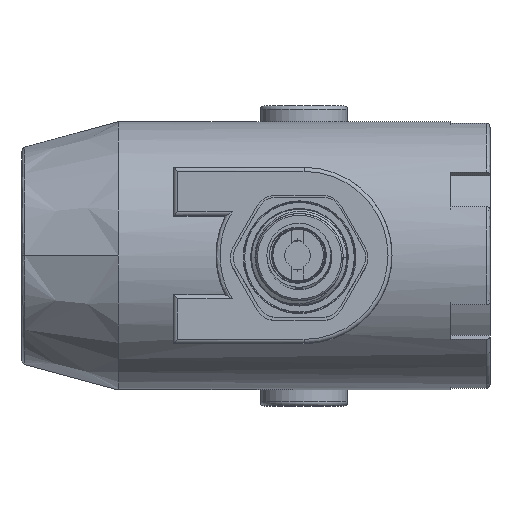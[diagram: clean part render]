
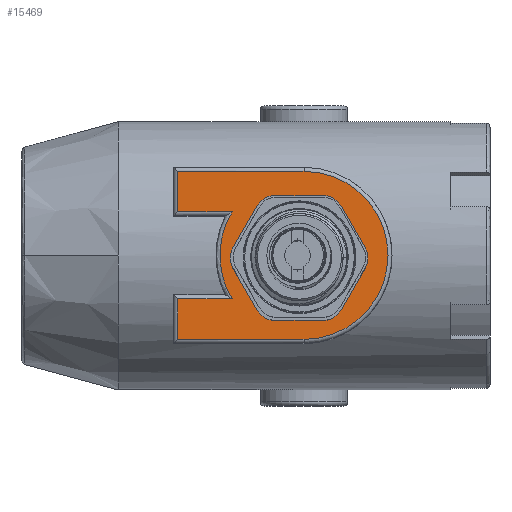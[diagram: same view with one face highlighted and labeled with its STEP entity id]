
A CAD part, top view. The second image highlights one B-rep face of the part: STEP entity #15469.
In plain terms, the highlighted planar face has unit normal (0, 0, 1) as drawn and (0, -1, 0) by its records, which use the part's own axes.
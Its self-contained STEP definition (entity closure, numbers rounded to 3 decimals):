
#13883=DIRECTION('',(0.,0.,-1.));
#13884=VECTOR('',#13883,10.137);
#13885=CARTESIAN_POINT('',(-31.531,0.,21.));
#13886=LINE('',#13885,#13884);
#13887=DIRECTION('',(-1.,0.,0.));
#13888=VECTOR('',#13887,31.531);
#13889=CARTESIAN_POINT('',(0.,0.,21.));
#13890=LINE('',#13889,#13888);
#13891=CARTESIAN_POINT('',(0.,0.,0.));
#13892=DIRECTION('',(0.,-1.,0.));
#13893=DIRECTION('',(0.,0.,-1.));
#13894=AXIS2_PLACEMENT_3D('',#13891,#13892,#13893);
#13896=DIRECTION('',(1.,0.,0.));
#13897=VECTOR('',#13896,31.531);
#13898=CARTESIAN_POINT('',(-31.531,0.,-21.));
#13899=LINE('',#13898,#13897);
#13900=DIRECTION('',(0.,0.,-1.));
#13901=VECTOR('',#13900,10.137);
#13902=CARTESIAN_POINT('',(-31.531,0.,-10.863));
#13903=LINE('',#13902,#13901);
#13904=DIRECTION('',(-1.,0.,0.));
#13905=VECTOR('',#13904,13.559);
#13906=CARTESIAN_POINT('',(-17.972,0.,-10.863));
#13907=LINE('',#13906,#13905);
#13908=CARTESIAN_POINT('',(0.,0.,0.));
#13909=DIRECTION('',(0.,-1.,0.));
#13910=DIRECTION('',(-0.856,0.,0.517));
#13911=AXIS2_PLACEMENT_3D('',#13908,#13909,#13910);
#13913=DIRECTION('',(1.,0.,0.));
#13914=VECTOR('',#13913,13.559);
#13915=CARTESIAN_POINT('',(-31.531,0.,10.863));
#13916=LINE('',#13915,#13914);
#14405=CARTESIAN_POINT('',(-31.531,0.,21.));
#14406=CARTESIAN_POINT('',(-31.531,0.,10.863));
#14407=VERTEX_POINT('',#14405);
#14408=VERTEX_POINT('',#14406);
#14409=CARTESIAN_POINT('',(-17.972,0.,10.863));
#14410=VERTEX_POINT('',#14409);
#14415=CARTESIAN_POINT('',(-17.972,0.,-10.863));
#14416=VERTEX_POINT('',#14415);
#14419=CARTESIAN_POINT('',(-31.531,0.,-10.863));
#14420=VERTEX_POINT('',#14419);
#14421=CARTESIAN_POINT('',(-31.531,0.,-21.));
#14422=VERTEX_POINT('',#14421);
#14427=CARTESIAN_POINT('',(0.,0.,21.));
#14428=VERTEX_POINT('',#14427);
#14429=CARTESIAN_POINT('',(0.,0.,-21.));
#14430=VERTEX_POINT('',#14429);
#15448=CARTESIAN_POINT('',(0.,0.,0.));
#15449=DIRECTION('',(0.,1.,0.));
#15450=DIRECTION('',(0.,0.,1.));
#15451=AXIS2_PLACEMENT_3D('',#15448,#15449,#15450);
#15452=PLANE('',#15451);
#15454=ORIENTED_EDGE('',*,*,#15453,.F.);
#15456=ORIENTED_EDGE('',*,*,#15455,.F.);
#15458=ORIENTED_EDGE('',*,*,#15457,.F.);
#15460=ORIENTED_EDGE('',*,*,#15459,.F.);
#15462=ORIENTED_EDGE('',*,*,#15461,.F.);
#15464=ORIENTED_EDGE('',*,*,#15463,.F.);
#15465=ORIENTED_EDGE('',*,*,#15426,.F.);
#15466=ORIENTED_EDGE('',*,*,#15438,.F.);
#15467=EDGE_LOOP('',(#15454,#15456,#15458,#15460,#15462,#15464,#15465,#15466));
#15468=FACE_OUTER_BOUND('',#15467,.F.);
#15469=ADVANCED_FACE('',(#15468),#15452,.F.);
#13895=CIRCLE('',#13894,21.);
#13912=CIRCLE('',#13911,21.);
#15426=EDGE_CURVE('',#14410,#14416,#13912,.T.);
#15438=EDGE_CURVE('',#14408,#14410,#13916,.T.);
#15453=EDGE_CURVE('',#14407,#14408,#13886,.T.);
#15455=EDGE_CURVE('',#14428,#14407,#13890,.T.);
#15457=EDGE_CURVE('',#14430,#14428,#13895,.T.);
#15459=EDGE_CURVE('',#14422,#14430,#13899,.T.);
#15461=EDGE_CURVE('',#14420,#14422,#13903,.T.);
#15463=EDGE_CURVE('',#14416,#14420,#13907,.T.);
